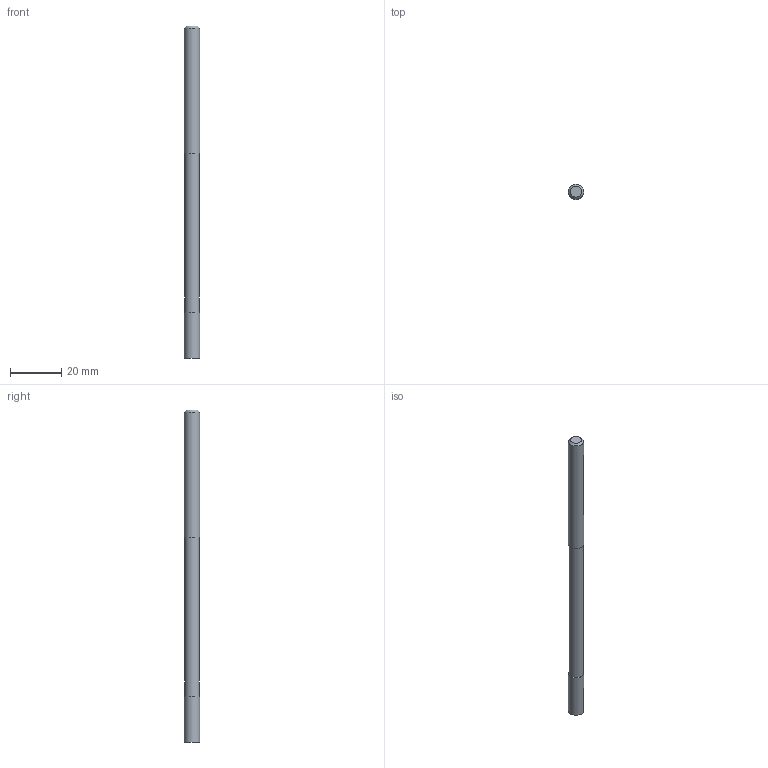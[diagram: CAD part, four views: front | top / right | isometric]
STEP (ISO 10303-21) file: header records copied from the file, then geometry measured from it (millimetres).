
FILE_DESCRIPTION((''),'2;1');
FILE_NAME('C:\Users\nsx150\Desktop\RSE230_20210427\01-00644-06080 RSE230 D6X18X80.step','2021-05-07T14:54:35',(''),(''),'STEP Write','Mastercam 2021 ... CNC Software, Inc.','');
FILE_SCHEMA(('AUTOMOTIVE_DESIGN'));
Length unit declared in the file: millimetre
Products named in the file (1): None
Bounding box: 6 x 6 x 130 mm (x, y, z)
Volume: 3555.2 mm3; surface area: 2514.9 mm2
Topology: 2 solids, 2 shells, 9 faces, 11 edges, 7 vertices
Faces by surface type: plane 5, cylinder 3, cone 1
Full cylindrical faces by diameter (mm): 5.8 x1, 6 x2
Entity records: 211 total; most frequent: DIRECTION 36, CARTESIAN_POINT 25, AXIS2_PLACEMENT_3D 18, ORIENTED_EDGE 14, EDGE_LOOP 14, STYLED_ITEM 12, ADVANCED_FACE 9, FACE_BOUND 8
